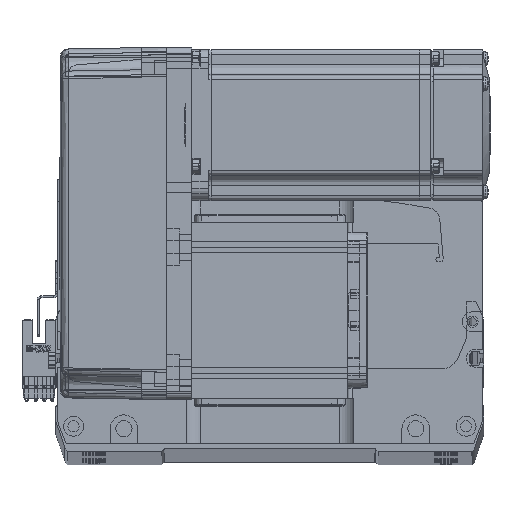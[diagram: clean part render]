
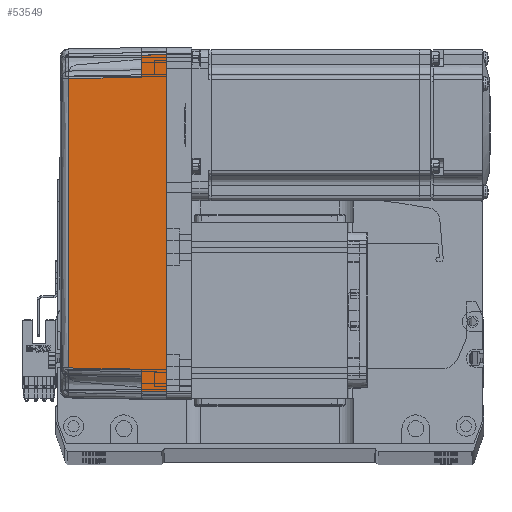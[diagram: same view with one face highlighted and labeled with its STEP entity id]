
A CAD part, top view. The second image highlights one B-rep face of the part: STEP entity #53549.
In plain terms, the highlighted planar face has unit normal (-0.018, 0, 1) as drawn and (0, 1, 0.017) by its records, which use the part's own axes.
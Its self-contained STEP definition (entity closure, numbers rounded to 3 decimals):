
#1060 = DIRECTION ( 'NONE',  ( 0., 1., 0.017 ) ) ;
#2403 = DIRECTION ( 'NONE',  ( 0.017, -0.017, 1. ) ) ;
#2701 = VERTEX_POINT ( 'NONE', #16976 ) ;
#4693 = VERTEX_POINT ( 'NONE', #35034 ) ;
#6030 = EDGE_CURVE ( 'NONE', #36959, #4693, #48485, .T. ) ;
#7338 = B_SPLINE_CURVE_WITH_KNOTS ( 'NONE', 3,
 ( #64574, #31273, #15560, #53560 ),
 .UNSPECIFIED., .F., .F.,
 ( 4, 4 ),
 ( 0., 1. ),
 .UNSPECIFIED. ) ;
#11876 = CARTESIAN_POINT ( 'NONE',  ( -66.826, 35.825, 10. ) ) ;
#14220 = LINE ( 'NONE', #15175, #15123 ) ;
#15123 = VECTOR ( 'NONE', #69929, 1000. ) ;
#15175 = CARTESIAN_POINT ( 'NONE',  ( -58., 35.825, 10. ) ) ;
#15560 = CARTESIAN_POINT ( 'NONE',  ( 19.165, 35.316, 39.181 ) ) ;
#16507 = VERTEX_POINT ( 'NONE', #63984 ) ;
#16976 = CARTESIAN_POINT ( 'NONE',  ( 58., 35.825, 10. ) ) ;
#17239 = LINE ( 'NONE', #30990, #59995 ) ;
#17882 = VECTOR ( 'NONE', #19775, 1000. ) ;
#18064 = CARTESIAN_POINT ( 'NONE',  ( 70., 35.825, 10. ) ) ;
#19648 = ORIENTED_EDGE ( 'NONE', *, *, #49355, .T. ) ;
#19693 = ORIENTED_EDGE ( 'NONE', *, *, #45761, .T. ) ;
#19775 = DIRECTION ( 'NONE',  ( 1., 0., 0. ) ) ;
#20405 = FACE_OUTER_BOUND ( 'NONE', #70456, .T. ) ;
#20424 = EDGE_CURVE ( 'NONE', #2701, #16507, #38302, .T. ) ;
#22890 = PLANE ( 'NONE',  #67664 ) ;
#25359 = EDGE_CURVE ( 'NONE', #33754, #33631, #14220, .T. ) ;
#25741 = EDGE_CURVE ( 'NONE', #36959, #53590, #57003, .T. ) ;
#26103 = ORIENTED_EDGE ( 'NONE', *, *, #25359, .T. ) ;
#27774 = VECTOR ( 'NONE', #28542, 1000. ) ;
#28542 = DIRECTION ( 'NONE',  ( 1., 0., 0. ) ) ;
#29121 = ORIENTED_EDGE ( 'NONE', *, *, #43563, .T. ) ;
#30990 = CARTESIAN_POINT ( 'NONE',  ( 67.001, 36.001, -0.052 ) ) ;
#31273 = CARTESIAN_POINT ( 'NONE',  ( -19.165, 35.316, 39.181 ) ) ;
#33207 = CARTESIAN_POINT ( 'NONE',  ( 0., 36., 0. ) ) ;
#33311 = DIRECTION ( 'NONE',  ( 0., -0.017, 1. ) ) ;
#33631 = VERTEX_POINT ( 'NONE', #44950 ) ;
#33754 = VERTEX_POINT ( 'NONE', #61660 ) ;
#33857 = VECTOR ( 'NONE', #49769, 1000. ) ;
#34013 = ORIENTED_EDGE ( 'NONE', *, *, #20424, .T. ) ;
#35034 = CARTESIAN_POINT ( 'NONE',  ( 67., 36., 0. ) ) ;
#36959 = VERTEX_POINT ( 'NONE', #52217 ) ;
#38302 = LINE ( 'NONE', #47005, #17882 ) ;
#39055 = VECTOR ( 'NONE', #53593, 1000. ) ;
#39587 = ORIENTED_EDGE ( 'NONE', *, *, #25741, .T. ) ;
#41554 = CARTESIAN_POINT ( 'NONE',  ( 57.495, 35.32, 38.985 ) ) ;
#42118 = VERTEX_POINT ( 'NONE', #41554 ) ;
#43563 = EDGE_CURVE ( 'NONE', #42118, #2701, #46833, .T. ) ;
#44950 = CARTESIAN_POINT ( 'NONE',  ( -57.495, 35.32, 38.985 ) ) ;
#45761 = EDGE_CURVE ( 'NONE', #53590, #33754, #64600, .T. ) ;
#46833 = LINE ( 'NONE', #69382, #39055 ) ;
#47005 = CARTESIAN_POINT ( 'NONE',  ( 70., 35.825, 10. ) ) ;
#48485 = LINE ( 'NONE', #33207, #33857 ) ;
#49355 = EDGE_CURVE ( 'NONE', #33631, #42118, #7338, .T. ) ;
#49769 = DIRECTION ( 'NONE',  ( 1., 0., 0. ) ) ;
#51210 = CARTESIAN_POINT ( 'NONE',  ( -67., 36., 0. ) ) ;
#52217 = CARTESIAN_POINT ( 'NONE',  ( -67., 36., 0. ) ) ;
#53549 = ADVANCED_FACE ( 'NONE', ( #20405 ), #22890, .T. ) ;
#53560 = CARTESIAN_POINT ( 'NONE',  ( 57.495, 35.32, 38.985 ) ) ;
#53590 = VERTEX_POINT ( 'NONE', #11876 ) ;
#53593 = DIRECTION ( 'NONE',  ( 0.017, 0.017, -1. ) ) ;
#55393 = CARTESIAN_POINT ( 'NONE',  ( 70., 36., 0. ) ) ;
#57003 = LINE ( 'NONE', #51210, #61240 ) ;
#57306 = EDGE_CURVE ( 'NONE', #4693, #16507, #17239, .T. ) ;
#57347 = ORIENTED_EDGE ( 'NONE', *, *, #6030, .F. ) ;
#59995 = VECTOR ( 'NONE', #63605, 1000. ) ;
#61240 = VECTOR ( 'NONE', #2403, 1000. ) ;
#61660 = CARTESIAN_POINT ( 'NONE',  ( -58., 35.825, 10. ) ) ;
#63605 = DIRECTION ( 'NONE',  ( -0.017, -0.017, 1. ) ) ;
#63984 = CARTESIAN_POINT ( 'NONE',  ( 66.826, 35.825, 10. ) ) ;
#64574 = CARTESIAN_POINT ( 'NONE',  ( -57.495, 35.32, 38.985 ) ) ;
#64600 = LINE ( 'NONE', #18064, #27774 ) ;
#67664 = AXIS2_PLACEMENT_3D ( 'NONE', #55393, #1060, #33311 ) ;
#69382 = CARTESIAN_POINT ( 'NONE',  ( 57.495, 35.32, 38.985 ) ) ;
#69929 = DIRECTION ( 'NONE',  ( 0.017, -0.017, 1. ) ) ;
#70089 = ORIENTED_EDGE ( 'NONE', *, *, #57306, .F. ) ;
#70456 = EDGE_LOOP ( 'NONE', ( #39587, #19693, #26103, #19648, #29121, #34013, #70089, #57347 ) ) ;
